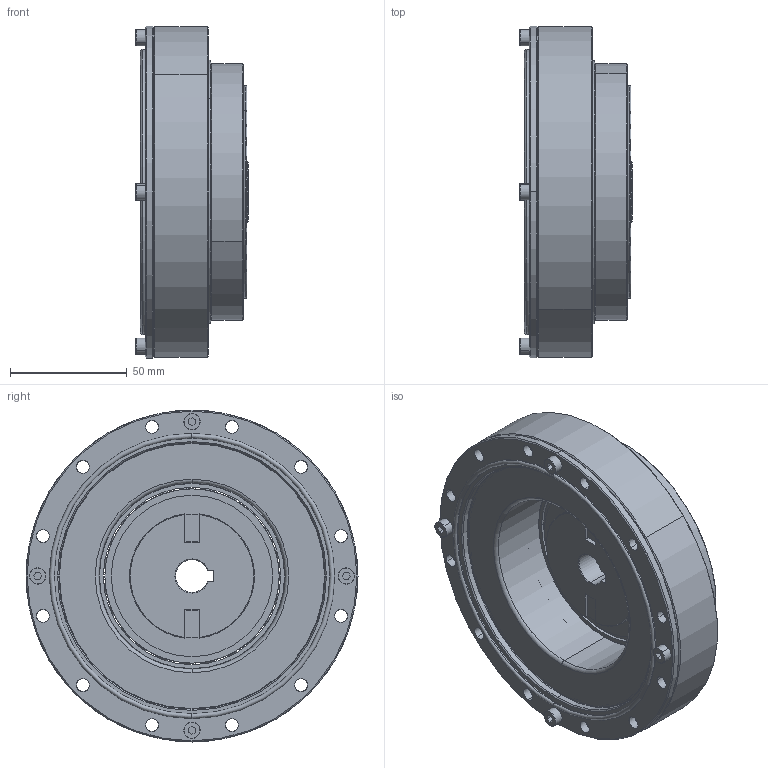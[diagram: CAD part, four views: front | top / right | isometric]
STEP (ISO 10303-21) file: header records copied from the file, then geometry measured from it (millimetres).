
FILE_DESCRIPTION (( 'STEP AP203' ), '1' );
FILE_NAME ('FHG-32-XXX-SO.STEP', '2023-01-29T09:18:59', ( '微软用户' ), ( '微软中国' ), 'SwSTEP 2.0', 'SolidWorks 2016', '' );
FILE_SCHEMA (( 'CONFIG_CONTROL_DESIGN' ));
Length unit declared in the file: millimetre
Products named in the file (1): FHG-32-XXX-SO
Bounding box: 48 x 142 x 142 mm (x, y, z)
Volume: 359568.4 mm3; surface area: 196720.1 mm2
Topology: 49 solids, 49 shells, 842 faces, 2091 edges, 1308 vertices
Faces by surface type: cylinder 373, plane 214, cone 137, torus 72, sphere 46
Entity records: 24408 total; most frequent: DIRECTION 4701, CARTESIAN_POINT 4094, ORIENTED_EDGE 3856, AXIS2_PLACEMENT_3D 1958, EDGE_CURVE 1928, VERTEX_POINT 1239, CIRCLE 1115, EDGE_LOOP 1029
